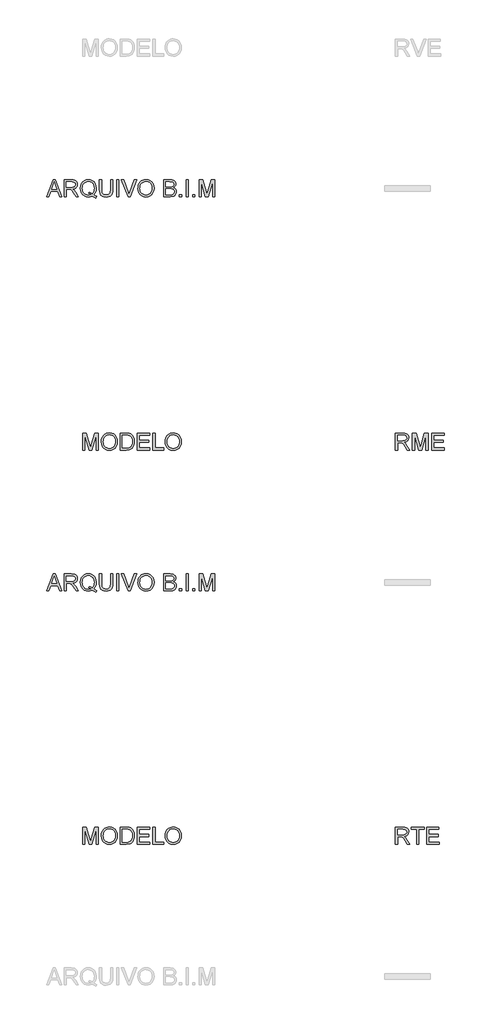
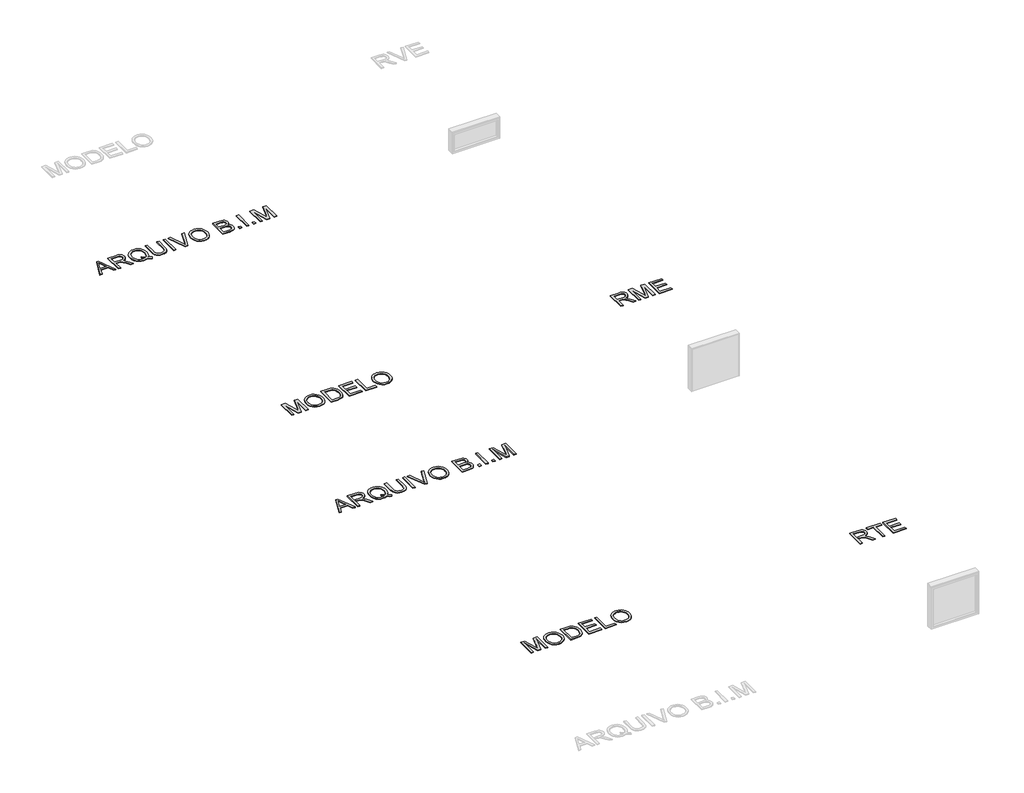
# One storey, part 2 of 15: 6 proxies.
"""IFC4 building model written with IfcOpenShell, lengths in millimetres."""

from ifc_helpers import new_model, si_unit, origin, origin_with_axes, place, context, project, spatial, polyline, outline, extrude, element, save

model = new_model("IFC4")

# Units and contexts
model_context = context("Model", 3, world=origin())
ifc_project = project(units=[si_unit("LENGTHUNIT", "METRE", prefix="MILLI")], contexts=[model_context])

# Site, building, storey
site = spatial("IfcSite", under=ifc_project)
building = spatial("IfcBuilding", under=site)
storey = spatial("IfcBuildingStorey", under=building, Name="Marelli - Linha REASONS - Planta Baixa", Elevation=0.0)

# Proxies
placement = place(None, origin())
element("IfcBuildingElementProxy", 1, Name="300mm Arial", ObjectType="300mm Arial", at=placement, inside=storey, context=model_context, shape_type="SweptSolid", body=[
    extrude(outline(polyline([(9390.580402, -168280.5663201), (9510.8778144, -167979.1973896), (9542.9571244, -167979.1973896), (9663.2545368, -168280.5663201), (9623.449705, -168280.5663201), (9588.9423738, -168186.3885293), (9464.8189886, -168186.3885293), (9430.3852339, -168280.5663201), (9390.580402, -168280.5663201)]), holes=[polyline([(9478.6513517, -168148.717413), (9575.1835872, -168148.717413), (9548.0338959, -168074.6259792), (9526.9174694, -168016.8685059), (9508.1554877, -168068.1512561), (9478.6513517, -168148.717413)])]), origin_with_axes(), (0.0, 0.0, 1.0), 10.0),
    extrude(outline(polyline([(9703.5008271, -168280.5663201), (9703.5008271, -167979.1973896), (9833.3631714, -167979.1973896), (9868.2659757, -167981.2299376), (9893.6590304, -167987.3275817), (9912.2186771, -167998.5847708), (9926.6212572, -168016.0959537), (9935.8642923, -168037.8101885), (9938.945304, -168061.6765329), (9933.8409413, -168091.3646099), (9918.5278533, -168115.9759154), (9906.9280741, -168126.0052983), (9892.5461874, -168134.0205273), (9855.4360911, -168144.0085235), (9876.8468232, -168160.1217548), (9907.3810288, -168198.8965171), (9957.6337094, -168280.5663201), (9913.855752, -168280.5663201), (9874.6395313, -168218.0999573), (9846.3126176, -168176.750021), (9826.4102017, -168157.2154871), (9808.4943485, -168150.0417882), (9786.642158, -168148.717413), (9741.1719434, -168148.717413), (9741.1719434, -168280.5663201), (9703.5008271, -168280.5663201)]), holes=[polyline([(9741.1719434, -168111.0462967), (9825.4904967, -168111.0462967), (9849.706329, -168109.7127245), (9868.4959019, -168105.7120078), (9882.6409647, -168098.7774322), (9892.9232664, -168088.6422832), (9899.1864574, -168076.3826157), (9901.2741877, -168063.0744845), (9897.2918651, -168044.6987789), (9885.3448973, -168029.8915286), (9864.7894908, -168020.1242616), (9834.9818522, -168016.8685059), (9741.1719434, -168016.8685059), (9741.1719434, -168111.0462967)])]), origin_with_axes(), (0.0, 0.0, 1.0), 10.0),
    extrude(outline(polyline([(10231.2643374, -168244.4403081), (10255.5997314, -168263.036743), (10277.9853508, -168275.8574305), (10267.8318077, -168303.4485802), (10236.7641732, -168289.0460001), (10205.8069033, -168268.205485), (10170.9500843, -168281.0077785), (10132.5983863, -168285.2752096), (10094.0627473, -168280.3547879), (10059.2427164, -168265.5935229), (10030.0788713, -168241.9203165), (10008.5117893, -168210.2640708), (9995.185264, -168172.3630282), (9990.7430889, -168129.9554312), (9995.176067, -168087.511046), (10008.4750011, -168049.0581805), (10029.9593096, -168016.9512794), (10058.9484108, -167993.5447874), (10093.639683, -167979.2525719), (10132.2305043, -167974.4885001), (10171.1248282, -167979.3629365), (10205.9908443, -167993.9862458), (10234.9339603, -168017.3835407), (10256.0595839, -168048.5799339), (10268.9722419, -168085.9199564), (10273.2764612, -168127.7481393), (10270.6644991, -168162.5313819), (10262.8286126, -168193.5990164), (10249.7136194, -168220.9142546), (10231.2643374, -168244.4403081)]), holes=[polyline([(10142.9726585, -168194.3347804), (10174.6472983, -168206.3093393), (10200.215097, -168222.9559996), (10215.6983305, -168205.4816049), (10226.7577829, -168184.1076609), (10233.3934544, -168158.8341679), (10235.6053449, -168129.6611256), (10232.478348, -168096.5057608), (10223.0973571, -168067.8201623), (10207.6922985, -168044.3308969), (10186.4930986, -168026.7645316), (10160.934497, -168015.8108452), (10132.4512335, -168012.1596164), (10110.966925, -168014.0059242), (10091.3956028, -168019.5448474), (10073.7372671, -168028.7763863), (10057.9919177, -168041.7005406), (10045.0516685, -168058.2897193), (10035.8086334, -168078.5163313), (10030.2628123, -168102.3803764), (10028.4142052, -168129.8818548), (10030.2421189, -168156.6659634), (10035.7258599, -168180.1437324), (10044.8654282, -168200.3151621), (10057.6608239, -168217.1802523), (10073.2981079, -168230.4906827), (10090.9633415, -168239.9981331), (10110.6565245, -168245.7026032), (10132.3776571, -168247.6040933), (10153.2917485, -168245.6727128), (10172.918253, -168239.8785714), (10153.6228423, -168229.853787), (10133.2605739, -168223.1767288), (10142.9726585, -168194.3347804)])]), origin_with_axes(), (0.0, 0.0, 1.0), 10.0),
    extrude(outline(polyline([(10527.5564963, -167979.1973896), (10565.2276126, -167979.1973896), (10565.2276126, -168153.0584205), (10562.6708327, -168193.7737604), (10555.0004931, -168225.1265034), (10540.6714894, -168249.3147446), (10518.1387172, -168268.5365788), (10487.3469942, -168281.0905519), (10448.2411381, -168285.2752096), (10409.9906077, -168281.6331779), (10379.4104168, -168270.7070826), (10356.4913685, -168252.8740029), (10341.2242657, -168228.5110178), (10332.6434182, -168195.8338995), (10329.7831357, -168153.0584205), (10329.7831357, -167979.1973896), (10367.454252, -167979.1973896), (10367.454252, -168151.7340454), (10369.3120561, -168185.588386), (10374.8854683, -168209.1604248), (10384.9838291, -168225.4851883), (10400.4164788, -168237.597703), (10420.5396239, -168245.1024957), (10444.709471, -168247.6040933), (10483.0243808, -168242.6560805), (10497.3671801, -168236.4710644), (10508.500209, -168227.812042), (10516.8373347, -168215.6351479), (10522.7924245, -168198.8965171), (10527.5564963, -168151.7340454), (10527.5564963, -167979.1973896)])), origin_with_axes(), (0.0, 0.0, 1.0), 10.0),
    extrude(outline(polyline([(10635.8609557, -168280.5663201), (10635.8609557, -167979.1973896), (10673.532072, -167979.1973896), (10673.532072, -168280.5663201), (10635.8609557, -168280.5663201)])), origin_with_axes(), (0.0, 0.0, 1.0), 10.0),
    extrude(outline(polyline([(10837.9017474, -168280.5663201), (10717.972217, -167979.1973896), (10758.2920837, -167979.1973896), (10838.563935, -168196.3213432), (10854.8243192, -168245.2496485), (10870.8639742, -168196.3213432), (10951.3565547, -167979.1973896), (10991.6764214, -167979.1973896), (10876.8236625, -168280.5663201), (10837.9017474, -168280.5663201)])), origin_with_axes(), (0.0, 0.0, 1.0), 10.0),
    extrude(outline(polyline([(11012.5721187, -168133.8549804), (11015.0829134, -168098.5061192), (11022.6152972, -168067.213157), (11035.1692703, -168039.9760937), (11052.7448326, -168016.7949295), (11074.288922, -167998.2858666), (11098.7484761, -167985.0651074), (11126.1234951, -167977.1326519), (11156.4139789, -167974.4885001), (11195.9428992, -167979.454907), (11231.3883295, -167994.3541278), (11260.8188891, -168018.1376988), (11282.3031976, -168049.7571563), (11295.4365848, -168087.68579), (11299.8143806, -168130.3968896), (11295.2066586, -168173.6782064), (11281.3834926, -168212.140269), (11259.1082378, -168243.8149088), (11229.1442493, -168266.733957), (11194.0023217, -168280.6398965), (11156.1932497, -168285.2752096), (11116.057324, -168280.1524528), (11080.4095587, -168264.7841825), (11051.0525754, -168240.5591531), (11029.7889961, -168208.8661192), (11016.8763381, -168172.3998164), (11012.5721187, -168133.8549804)]), holes=[polyline([(11050.2432351, -168134.2228624), (11052.126331, -168159.1974513), (11057.7756189, -168181.3669401), (11067.1910987, -168200.7313286), (11080.3727705, -168217.2906169), (11096.3963306, -168230.5527628), (11114.3374757, -168240.0257242), (11134.1962056, -168245.709501), (11155.9725205, -168247.6040933), (11178.1213158, -168245.6911069), (11198.2145706, -168239.9521478), (11216.2522846, -168230.3872159), (11232.2344581, -168216.9963113), (11245.3195608, -168200.0875351), (11254.6660627, -168179.9689885), (11260.2739639, -168156.6406715), (11262.1432643, -168130.102584), (11258.9426909, -168096.7540812), (11249.3409708, -168067.9305269), (11233.5864244, -168044.358488), (11211.9273719, -168026.7645316), (11185.7985532, -168015.8108452), (11156.6347081, -168012.1596164), (11135.6148506, -168013.9185522), (11116.1125063, -168019.1953595), (11098.1276752, -168027.9900385), (11081.6603574, -168040.302589), (11067.9153664, -168056.7262208), (11058.0975156, -168077.8541437), (11052.2068052, -168103.6863575), (11050.2432351, -168134.2228624)])]), origin_with_axes(), (0.0, 0.0, 1.0), 10.0),
    extrude(outline(polyline([(11469.334404, -168280.5663201), (11469.334404, -167979.1973896), (11584.3343156, -167979.1973896), (11615.9629702, -167981.4138786), (11640.6570491, -167988.0633457), (11659.5845778, -167999.3113377), (11673.9135815, -168015.3234015), (11682.9358874, -168034.1589597), (11685.9433227, -168053.8774346), (11683.414134, -168072.0232141), (11675.8265679, -168089.0837416), (11663.125442, -168104.0105535), (11645.2555741, -168115.7551862), (11666.6019268, -168126.9020107), (11682.3748674, -168143.8613707), (11692.1145432, -168165.5112261), (11695.3611018, -168190.7295368), (11693.1446128, -168211.7447958), (11686.4951457, -168231.2333445), (11676.5715289, -168247.8064284), (11664.5325906, -168260.0752929), (11649.7897196, -168268.9596431), (11631.7543048, -168275.3791839), (11583.4513989, -168280.5663201), (11469.334404, -168280.5663201)]), holes=[polyline([(11507.0055203, -168101.6285176), (11575.7994534, -168101.6285176), (11615.9721672, -168098.3911561), (11630.0344565, -168092.8085468), (11640.1420143, -168084.4484284), (11646.2396584, -168073.4395597), (11648.2722064, -168059.9106994), (11646.3776141, -168046.7773121), (11640.6938373, -168035.3361821), (11631.4783933, -168026.4058467), (11618.9887996, -168020.8048433), (11570.575529, -168016.8685059), (11507.0055203, -168016.8685059), (11507.0055203, -168101.6285176)]), polyline([(11507.0055203, -168242.8952038), (11584.2607393, -168242.8952038), (11612.2197709, -168241.4236758), (11635.8745832, -168233.2199073), (11651.5463562, -168216.4812765), (11656.1540782, -168204.6538704), (11657.6899855, -168191.0974188), (11655.8873637, -168175.3520694), (11650.4794984, -168161.814012), (11641.0341282, -168151.2282076), (11627.1189917, -168144.3396173), (11607.4097138, -168140.5596298), (11580.5819193, -168139.2996339), (11507.0055203, -168139.2996339), (11507.0055203, -168242.8952038)])]), origin_with_axes(), (0.0, 0.0, 1.0), 10.0),
    extrude(outline(polyline([(11751.8677763, -168280.5663201), (11751.8677763, -168242.8952038), (11789.5388926, -168242.8952038), (11789.5388926, -168280.5663201), (11751.8677763, -168280.5663201)])), origin_with_axes(), (0.0, 0.0, 1.0), 10.0),
    extrude(outline(polyline([(11869.5900147, -168280.5663201), (11869.5900147, -167979.1973896), (11907.261131, -167979.1973896), (11907.261131, -168280.5663201), (11869.5900147, -168280.5663201)])), origin_with_axes(), (0.0, 0.0, 1.0), 10.0),
    extrude(outline(polyline([(11987.3122532, -168280.5663201), (11987.3122532, -168242.8952038), (12024.9833695, -168242.8952038), (12024.9833695, -168280.5663201), (11987.3122532, -168280.5663201)])), origin_with_axes(), (0.0, 0.0, 1.0), 10.0),
    extrude(outline(polyline([(12100.3256021, -168280.5663201), (12100.3256021, -167979.1973896), (12165.1464096, -167979.1973896), (12226.803432, -168191.6124536), (12239.2378435, -168235.9790223), (12252.7023245, -168187.9336337), (12313.3292773, -167979.1973896), (12378.1500848, -167979.1973896), (12378.1500848, -168280.5663201), (12340.4789685, -168280.5663201), (12340.4789685, -168016.8685059), (12264.7688539, -168280.5663201), (12213.706833, -168280.5663201), (12137.9967184, -168016.8685059), (12137.9967184, -168280.5663201), (12100.3256021, -168280.5663201)])), origin_with_axes(), (0.0, 0.0, 1.0), 10.0),
])
element("IfcBuildingElementProxy", 2, Name="300mm Arial", ObjectType="300mm Arial", at=placement, inside=storey, context=model_context, shape_type="SweptSolid", body=[
    extrude(outline(polyline([(10033.1230948, -165780.5663201), (10033.1230948, -165479.1973896), (10097.9439023, -165479.1973896), (10159.6009247, -165691.6124536), (10172.0353362, -165735.9790223), (10185.4998172, -165687.9336337), (10246.12677, -165479.1973896), (10310.9475775, -165479.1973896), (10310.9475775, -165780.5663201), (10273.2764612, -165780.5663201), (10273.2764612, -165516.8685059), (10197.5663466, -165780.5663201), (10146.5043257, -165780.5663201), (10070.7942111, -165516.8685059), (10070.7942111, -165780.5663201), (10033.1230948, -165780.5663201)])), origin_with_axes(), (0.0, 0.0, 1.0), 10.0),
    extrude(outline(polyline([(10362.7453625, -165633.8549804), (10365.2561571, -165598.5061192), (10372.7885409, -165567.213157), (10385.342514, -165539.9760937), (10402.9180763, -165516.7949295), (10424.4621657, -165498.2858666), (10448.9217198, -165485.0651074), (10476.2967388, -165477.1326519), (10506.5872226, -165474.4885001), (10546.116143, -165479.454907), (10581.5615732, -165494.3541278), (10610.9921328, -165518.1376988), (10632.4764413, -165549.7571563), (10645.6098286, -165587.68579), (10649.9876243, -165630.3968896), (10645.3799023, -165673.6782064), (10631.5567363, -165712.140269), (10609.2814815, -165743.8149088), (10579.317493, -165766.733957), (10544.1755654, -165780.6398965), (10506.3664934, -165785.2752096), (10466.2305677, -165780.1524528), (10430.5828024, -165764.7841825), (10401.2258192, -165740.5591531), (10379.9622398, -165708.8661192), (10367.0495818, -165672.3998164), (10362.7453625, -165633.8549804)]), holes=[polyline([(10400.4164788, -165634.2228624), (10402.2995747, -165659.1974513), (10407.9488626, -165681.3669401), (10417.3643424, -165700.7313286), (10430.5460142, -165717.2906169), (10446.5695743, -165730.5527628), (10464.5107194, -165740.0257242), (10484.3694493, -165745.709501), (10506.1457642, -165747.6040933), (10528.2945596, -165745.6911069), (10548.3878143, -165739.9521478), (10566.4255284, -165730.3872159), (10582.4077018, -165716.9963113), (10595.4928045, -165700.0875351), (10604.8393064, -165679.9689885), (10610.4472076, -165656.6406715), (10612.316508, -165630.102584), (10609.1159346, -165596.7540812), (10599.5142146, -165567.9305269), (10583.7596681, -165544.358488), (10562.1006157, -165526.7645316), (10535.9717969, -165515.8108452), (10506.8079518, -165512.1596164), (10485.7880943, -165513.9185522), (10466.28575, -165519.1953595), (10448.300919, -165527.9900385), (10431.8336012, -165540.302589), (10418.0886101, -165556.7262208), (10408.2707594, -165577.8541437), (10402.3800489, -165603.6863575), (10400.4164788, -165634.2228624)])]), origin_with_axes(), (0.0, 0.0, 1.0), 10.0),
    extrude(outline(polyline([(10701.7854092, -165780.5663201), (10701.7854092, -165479.1973896), (10805.7488611, -165479.1973896), (10859.5332088, -165483.5383972), (10883.555903, -165491.9077126), (10903.826201, -165505.0962821), (10924.666716, -165528.0521186), (10939.5107545, -165556.5997614), (10948.3951047, -165590.1873876), (10951.3565547, -165628.2631741), (10949.3515979, -165660.6091985), (10943.3367273, -165689.0740679), (10934.1764656, -165713.3082943), (10922.7353355, -165732.9623899), (10909.5651601, -165748.477813), (10895.2177623, -165760.2960221), (10878.745846, -165769.0608107), (10859.202115, -165775.4159721), (10810.7520562, -165780.5663201), (10701.7854092, -165780.5663201)]), holes=[polyline([(10739.4565255, -165742.8952038), (10806.1167431, -165742.8952038), (10833.6894986, -165741.5340404), (10854.60359, -165737.4505502), (10870.3857276, -165730.8838566), (10882.5626217, -165722.0730828), (10895.6500236, -165705.7667134), (10905.48167, -165684.6594839), (10911.6344963, -165658.6594239), (10913.6854384, -165627.6745629), (10909.6663276, -165586.6189322), (10897.6089953, -165556.3054558), (10879.7943096, -165535.4833349), (10858.5031392, -165522.9017706), (10836.8348897, -165518.3768221), (10805.0866735, -165516.8685059), (10739.4565255, -165516.8685059), (10739.4565255, -165742.8952038)])]), origin_with_axes(), (0.0, 0.0, 1.0), 10.0),
    extrude(outline(polyline([(11003.1543397, -165780.5663201), (11003.1543397, -165479.1973896), (11219.7632584, -165479.1973896), (11219.7632584, -165516.8685059), (11040.825456, -165516.8685059), (11040.825456, -165606.3374072), (11210.3454794, -165606.3374072), (11210.3454794, -165644.0085235), (11040.825456, -165644.0085235), (11040.825456, -165742.8952038), (11224.472148, -165742.8952038), (11224.472148, -165780.5663201), (11003.1543397, -165780.5663201)])), origin_with_axes(), (0.0, 0.0, 1.0), 10.0),
    extrude(outline(polyline([(11280.9788224, -165780.5663201), (11280.9788224, -165479.1973896), (11318.6499387, -165479.1973896), (11318.6499387, -165742.8952038), (11469.334404, -165742.8952038), (11469.334404, -165780.5663201), (11280.9788224, -165780.5663201)])), origin_with_axes(), (0.0, 0.0, 1.0), 10.0),
    extrude(outline(polyline([(11497.5877412, -165633.8549804), (11500.0985358, -165598.5061192), (11507.6309197, -165567.213157), (11520.1848927, -165539.9760937), (11537.7604551, -165516.7949295), (11559.3045444, -165498.2858666), (11583.7640986, -165485.0651074), (11611.1391175, -165477.1326519), (11641.4296013, -165474.4885001), (11680.9585217, -165479.454907), (11716.4039519, -165494.3541278), (11745.8345115, -165518.1376988), (11767.3188201, -165549.7571563), (11780.4522073, -165587.68579), (11784.830003, -165630.3968896), (11780.222281, -165673.6782064), (11766.3991151, -165712.140269), (11744.1238603, -165743.8149088), (11714.1598717, -165766.733957), (11679.0179442, -165780.6398965), (11641.2088721, -165785.2752096), (11601.0729464, -165780.1524528), (11565.4251811, -165764.7841825), (11536.0681979, -165740.5591531), (11514.8046186, -165708.8661192), (11501.8919605, -165672.3998164), (11497.5877412, -165633.8549804)]), holes=[polyline([(11535.2588575, -165634.2228624), (11537.1419535, -165659.1974513), (11542.7912413, -165681.3669401), (11552.2067212, -165700.7313286), (11565.3883929, -165717.2906169), (11581.4119531, -165730.5527628), (11599.3530981, -165740.0257242), (11619.2118281, -165745.709501), (11640.9881429, -165747.6040933), (11663.1369383, -165745.6911069), (11683.230193, -165739.9521478), (11701.2679071, -165730.3872159), (11717.2500805, -165716.9963113), (11730.3351832, -165700.0875351), (11739.6816852, -165679.9689885), (11745.2895863, -165656.6406715), (11747.1588867, -165630.102584), (11743.9583134, -165596.7540812), (11734.3565933, -165567.9305269), (11718.6020468, -165544.358488), (11696.9429944, -165526.7645316), (11670.8141757, -165515.8108452), (11641.6503305, -165512.1596164), (11620.630473, -165513.9185522), (11601.1281287, -165519.1953595), (11583.1432977, -165527.9900385), (11566.6759799, -165540.302589), (11552.9309888, -165556.7262208), (11543.1131381, -165577.8541437), (11537.2224276, -165603.6863575), (11535.2588575, -165634.2228624)])]), origin_with_axes(), (0.0, 0.0, 1.0), 10.0),
])
element("IfcBuildingElementProxy", 3, Name="300mm Arial", ObjectType="300mm Arial", at=placement, inside=storey, context=model_context, shape_type="SweptSolid", body=[
    extrude(outline(polyline([(9390.580402, -161280.5663201), (9510.8778144, -160979.1973896), (9542.9571244, -160979.1973896), (9663.2545368, -161280.5663201), (9623.449705, -161280.5663201), (9588.9423738, -161186.3885293), (9464.8189886, -161186.3885293), (9430.3852339, -161280.5663201), (9390.580402, -161280.5663201)]), holes=[polyline([(9478.6513517, -161148.717413), (9575.1835872, -161148.717413), (9548.0338959, -161074.6259792), (9526.9174694, -161016.8685059), (9508.1554877, -161068.1512561), (9478.6513517, -161148.717413)])]), origin_with_axes(), (0.0, 0.0, 1.0), 10.0),
    extrude(outline(polyline([(9703.5008271, -161280.5663201), (9703.5008271, -160979.1973896), (9833.3631714, -160979.1973896), (9868.2659757, -160981.2299376), (9893.6590304, -160987.3275817), (9912.2186771, -160998.5847708), (9926.6212572, -161016.0959537), (9935.8642923, -161037.8101885), (9938.945304, -161061.6765329), (9933.8409413, -161091.3646099), (9918.5278533, -161115.9759154), (9906.9280741, -161126.0052983), (9892.5461874, -161134.0205273), (9855.4360911, -161144.0085235), (9876.8468232, -161160.1217548), (9907.3810288, -161198.8965171), (9957.6337094, -161280.5663201), (9913.855752, -161280.5663201), (9874.6395313, -161218.0999573), (9846.3126176, -161176.750021), (9826.4102017, -161157.2154871), (9808.4943485, -161150.0417882), (9786.642158, -161148.717413), (9741.1719434, -161148.717413), (9741.1719434, -161280.5663201), (9703.5008271, -161280.5663201)]), holes=[polyline([(9741.1719434, -161111.0462967), (9825.4904967, -161111.0462967), (9849.706329, -161109.7127245), (9868.4959019, -161105.7120078), (9882.6409647, -161098.7774322), (9892.9232664, -161088.6422832), (9899.1864574, -161076.3826157), (9901.2741877, -161063.0744845), (9897.2918651, -161044.6987789), (9885.3448973, -161029.8915286), (9864.7894908, -161020.1242616), (9834.9818522, -161016.8685059), (9741.1719434, -161016.8685059), (9741.1719434, -161111.0462967)])]), origin_with_axes(), (0.0, 0.0, 1.0), 10.0),
    extrude(outline(polyline([(10231.2643374, -161244.4403081), (10255.5997314, -161263.036743), (10277.9853508, -161275.8574305), (10267.8318077, -161303.4485802), (10236.7641732, -161289.0460001), (10205.8069033, -161268.205485), (10170.9500843, -161281.0077785), (10132.5983863, -161285.2752096), (10094.0627473, -161280.3547879), (10059.2427164, -161265.5935229), (10030.0788713, -161241.9203165), (10008.5117893, -161210.2640708), (9995.185264, -161172.3630282), (9990.7430889, -161129.9554312), (9995.176067, -161087.511046), (10008.4750011, -161049.0581805), (10029.9593096, -161016.9512794), (10058.9484108, -160993.5447874), (10093.639683, -160979.2525719), (10132.2305043, -160974.4885001), (10171.1248282, -160979.3629365), (10205.9908443, -160993.9862458), (10234.9339603, -161017.3835407), (10256.0595839, -161048.5799339), (10268.9722419, -161085.9199564), (10273.2764612, -161127.7481393), (10270.6644991, -161162.5313819), (10262.8286126, -161193.5990164), (10249.7136194, -161220.9142546), (10231.2643374, -161244.4403081)]), holes=[polyline([(10142.9726585, -161194.3347804), (10174.6472983, -161206.3093393), (10200.215097, -161222.9559996), (10215.6983305, -161205.4816049), (10226.7577829, -161184.1076609), (10233.3934544, -161158.8341679), (10235.6053449, -161129.6611256), (10232.478348, -161096.5057608), (10223.0973571, -161067.8201623), (10207.6922985, -161044.3308969), (10186.4930986, -161026.7645316), (10160.934497, -161015.8108452), (10132.4512335, -161012.1596164), (10110.966925, -161014.0059242), (10091.3956028, -161019.5448474), (10073.7372671, -161028.7763863), (10057.9919177, -161041.7005406), (10045.0516685, -161058.2897193), (10035.8086334, -161078.5163313), (10030.2628123, -161102.3803764), (10028.4142052, -161129.8818548), (10030.2421189, -161156.6659634), (10035.7258599, -161180.1437324), (10044.8654282, -161200.3151621), (10057.6608239, -161217.1802523), (10073.2981079, -161230.4906827), (10090.9633415, -161239.9981331), (10110.6565245, -161245.7026032), (10132.3776571, -161247.6040933), (10153.2917485, -161245.6727128), (10172.918253, -161239.8785714), (10153.6228423, -161229.853787), (10133.2605739, -161223.1767288), (10142.9726585, -161194.3347804)])]), origin_with_axes(), (0.0, 0.0, 1.0), 10.0),
    extrude(outline(polyline([(10527.5564963, -160979.1973896), (10565.2276126, -160979.1973896), (10565.2276126, -161153.0584205), (10562.6708327, -161193.7737604), (10555.0004931, -161225.1265034), (10540.6714894, -161249.3147446), (10518.1387172, -161268.5365788), (10487.3469942, -161281.0905519), (10448.2411381, -161285.2752096), (10409.9906077, -161281.6331779), (10379.4104168, -161270.7070826), (10356.4913685, -161252.8740029), (10341.2242657, -161228.5110178), (10332.6434182, -161195.8338995), (10329.7831357, -161153.0584205), (10329.7831357, -160979.1973896), (10367.454252, -160979.1973896), (10367.454252, -161151.7340454), (10369.3120561, -161185.588386), (10374.8854683, -161209.1604248), (10384.9838291, -161225.4851883), (10400.4164788, -161237.597703), (10420.5396239, -161245.1024957), (10444.709471, -161247.6040933), (10483.0243808, -161242.6560805), (10497.3671801, -161236.4710644), (10508.500209, -161227.812042), (10516.8373347, -161215.6351479), (10522.7924245, -161198.8965171), (10527.5564963, -161151.7340454), (10527.5564963, -160979.1973896)])), origin_with_axes(), (0.0, 0.0, 1.0), 10.0),
    extrude(outline(polyline([(10635.8609557, -161280.5663201), (10635.8609557, -160979.1973896), (10673.532072, -160979.1973896), (10673.532072, -161280.5663201), (10635.8609557, -161280.5663201)])), origin_with_axes(), (0.0, 0.0, 1.0), 10.0),
    extrude(outline(polyline([(10837.9017474, -161280.5663201), (10717.972217, -160979.1973896), (10758.2920837, -160979.1973896), (10838.563935, -161196.3213432), (10854.8243192, -161245.2496485), (10870.8639742, -161196.3213432), (10951.3565547, -160979.1973896), (10991.6764214, -160979.1973896), (10876.8236625, -161280.5663201), (10837.9017474, -161280.5663201)])), origin_with_axes(), (0.0, 0.0, 1.0), 10.0),
    extrude(outline(polyline([(11012.5721187, -161133.8549804), (11015.0829134, -161098.5061192), (11022.6152972, -161067.213157), (11035.1692703, -161039.9760937), (11052.7448326, -161016.7949295), (11074.288922, -160998.2858666), (11098.7484761, -160985.0651074), (11126.1234951, -160977.1326519), (11156.4139789, -160974.4885001), (11195.9428992, -160979.454907), (11231.3883295, -160994.3541278), (11260.8188891, -161018.1376988), (11282.3031976, -161049.7571563), (11295.4365848, -161087.68579), (11299.8143806, -161130.3968896), (11295.2066586, -161173.6782064), (11281.3834926, -161212.140269), (11259.1082378, -161243.8149088), (11229.1442493, -161266.733957), (11194.0023217, -161280.6398965), (11156.1932497, -161285.2752096), (11116.057324, -161280.1524528), (11080.4095587, -161264.7841825), (11051.0525754, -161240.5591531), (11029.7889961, -161208.8661192), (11016.8763381, -161172.3998164), (11012.5721187, -161133.8549804)]), holes=[polyline([(11050.2432351, -161134.2228624), (11052.126331, -161159.1974513), (11057.7756189, -161181.3669401), (11067.1910987, -161200.7313286), (11080.3727705, -161217.2906169), (11096.3963306, -161230.5527628), (11114.3374757, -161240.0257242), (11134.1962056, -161245.709501), (11155.9725205, -161247.6040933), (11178.1213158, -161245.6911069), (11198.2145706, -161239.9521478), (11216.2522846, -161230.3872159), (11232.2344581, -161216.9963113), (11245.3195608, -161200.0875351), (11254.6660627, -161179.9689885), (11260.2739639, -161156.6406715), (11262.1432643, -161130.102584), (11258.9426909, -161096.7540812), (11249.3409708, -161067.9305269), (11233.5864244, -161044.358488), (11211.9273719, -161026.7645316), (11185.7985532, -161015.8108452), (11156.6347081, -161012.1596164), (11135.6148506, -161013.9185522), (11116.1125063, -161019.1953595), (11098.1276752, -161027.9900385), (11081.6603574, -161040.302589), (11067.9153664, -161056.7262208), (11058.0975156, -161077.8541437), (11052.2068052, -161103.6863575), (11050.2432351, -161134.2228624)])]), origin_with_axes(), (0.0, 0.0, 1.0), 10.0),
    extrude(outline(polyline([(11469.334404, -161280.5663201), (11469.334404, -160979.1973896), (11584.3343156, -160979.1973896), (11615.9629702, -160981.4138786), (11640.6570491, -160988.0633457), (11659.5845778, -160999.3113377), (11673.9135815, -161015.3234015), (11682.9358874, -161034.1589597), (11685.9433227, -161053.8774346), (11683.414134, -161072.0232141), (11675.8265679, -161089.0837416), (11663.125442, -161104.0105535), (11645.2555741, -161115.7551862), (11666.6019268, -161126.9020107), (11682.3748674, -161143.8613707), (11692.1145432, -161165.5112261), (11695.3611018, -161190.7295368), (11693.1446128, -161211.7447958), (11686.4951457, -161231.2333445), (11676.5715289, -161247.8064284), (11664.5325906, -161260.0752929), (11649.7897196, -161268.9596431), (11631.7543048, -161275.3791839), (11583.4513989, -161280.5663201), (11469.334404, -161280.5663201)]), holes=[polyline([(11507.0055203, -161101.6285176), (11575.7994534, -161101.6285176), (11615.9721672, -161098.3911561), (11630.0344565, -161092.8085468), (11640.1420143, -161084.4484284), (11646.2396584, -161073.4395597), (11648.2722064, -161059.9106994), (11646.3776141, -161046.7773121), (11640.6938373, -161035.3361821), (11631.4783933, -161026.4058467), (11618.9887996, -161020.8048433), (11570.575529, -161016.8685059), (11507.0055203, -161016.8685059), (11507.0055203, -161101.6285176)]), polyline([(11507.0055203, -161242.8952038), (11584.2607393, -161242.8952038), (11612.2197709, -161241.4236758), (11635.8745832, -161233.2199073), (11651.5463562, -161216.4812765), (11656.1540782, -161204.6538704), (11657.6899855, -161191.0974188), (11655.8873637, -161175.3520694), (11650.4794984, -161161.814012), (11641.0341282, -161151.2282076), (11627.1189917, -161144.3396173), (11607.4097138, -161140.5596298), (11580.5819193, -161139.2996339), (11507.0055203, -161139.2996339), (11507.0055203, -161242.8952038)])]), origin_with_axes(), (0.0, 0.0, 1.0), 10.0),
    extrude(outline(polyline([(11751.8677763, -161280.5663201), (11751.8677763, -161242.8952038), (11789.5388926, -161242.8952038), (11789.5388926, -161280.5663201), (11751.8677763, -161280.5663201)])), origin_with_axes(), (0.0, 0.0, 1.0), 10.0),
    extrude(outline(polyline([(11869.5900147, -161280.5663201), (11869.5900147, -160979.1973896), (11907.261131, -160979.1973896), (11907.261131, -161280.5663201), (11869.5900147, -161280.5663201)])), origin_with_axes(), (0.0, 0.0, 1.0), 10.0),
    extrude(outline(polyline([(11987.3122532, -161280.5663201), (11987.3122532, -161242.8952038), (12024.9833695, -161242.8952038), (12024.9833695, -161280.5663201), (11987.3122532, -161280.5663201)])), origin_with_axes(), (0.0, 0.0, 1.0), 10.0),
    extrude(outline(polyline([(12100.3256021, -161280.5663201), (12100.3256021, -160979.1973896), (12165.1464096, -160979.1973896), (12226.803432, -161191.6124536), (12239.2378435, -161235.9790223), (12252.7023245, -161187.9336337), (12313.3292773, -160979.1973896), (12378.1500848, -160979.1973896), (12378.1500848, -161280.5663201), (12340.4789685, -161280.5663201), (12340.4789685, -161016.8685059), (12264.7688539, -161280.5663201), (12213.706833, -161280.5663201), (12137.9967184, -161016.8685059), (12137.9967184, -161280.5663201), (12100.3256021, -161280.5663201)])), origin_with_axes(), (0.0, 0.0, 1.0), 10.0),
])
element("IfcBuildingElementProxy", 4, Name="300mm Arial", ObjectType="300mm Arial", at=placement, inside=storey, context=model_context, shape_type="SweptSolid", body=[
    extrude(outline(polyline([(10033.1230948, -172780.5663201), (10033.1230948, -172479.1973896), (10097.9439023, -172479.1973896), (10159.6009247, -172691.6124536), (10172.0353362, -172735.9790223), (10185.4998172, -172687.9336337), (10246.12677, -172479.1973896), (10310.9475775, -172479.1973896), (10310.9475775, -172780.5663201), (10273.2764612, -172780.5663201), (10273.2764612, -172516.8685059), (10197.5663466, -172780.5663201), (10146.5043257, -172780.5663201), (10070.7942111, -172516.8685059), (10070.7942111, -172780.5663201), (10033.1230948, -172780.5663201)])), origin_with_axes(), (0.0, 0.0, 1.0), 10.0),
    extrude(outline(polyline([(10362.7453625, -172633.8549804), (10365.2561571, -172598.5061192), (10372.7885409, -172567.213157), (10385.342514, -172539.9760937), (10402.9180763, -172516.7949295), (10424.4621657, -172498.2858666), (10448.9217198, -172485.0651074), (10476.2967388, -172477.1326519), (10506.5872226, -172474.4885001), (10546.116143, -172479.454907), (10581.5615732, -172494.3541278), (10610.9921328, -172518.1376988), (10632.4764413, -172549.7571563), (10645.6098286, -172587.68579), (10649.9876243, -172630.3968896), (10645.3799023, -172673.6782064), (10631.5567363, -172712.140269), (10609.2814815, -172743.8149088), (10579.317493, -172766.733957), (10544.1755654, -172780.6398965), (10506.3664934, -172785.2752096), (10466.2305677, -172780.1524528), (10430.5828024, -172764.7841825), (10401.2258192, -172740.5591531), (10379.9622398, -172708.8661192), (10367.0495818, -172672.3998164), (10362.7453625, -172633.8549804)]), holes=[polyline([(10400.4164788, -172634.2228624), (10402.2995747, -172659.1974513), (10407.9488626, -172681.3669401), (10417.3643424, -172700.7313286), (10430.5460142, -172717.2906169), (10446.5695743, -172730.5527628), (10464.5107194, -172740.0257242), (10484.3694493, -172745.709501), (10506.1457642, -172747.6040933), (10528.2945596, -172745.6911069), (10548.3878143, -172739.9521478), (10566.4255284, -172730.3872159), (10582.4077018, -172716.9963113), (10595.4928045, -172700.0875351), (10604.8393064, -172679.9689885), (10610.4472076, -172656.6406715), (10612.316508, -172630.102584), (10609.1159346, -172596.7540812), (10599.5142146, -172567.9305269), (10583.7596681, -172544.358488), (10562.1006157, -172526.7645316), (10535.9717969, -172515.8108452), (10506.8079518, -172512.1596164), (10485.7880943, -172513.9185522), (10466.28575, -172519.1953595), (10448.300919, -172527.9900385), (10431.8336012, -172540.302589), (10418.0886101, -172556.7262208), (10408.2707594, -172577.8541437), (10402.3800489, -172603.6863575), (10400.4164788, -172634.2228624)])]), origin_with_axes(), (0.0, 0.0, 1.0), 10.0),
    extrude(outline(polyline([(10701.7854092, -172780.5663201), (10701.7854092, -172479.1973896), (10805.7488611, -172479.1973896), (10859.5332088, -172483.5383972), (10883.555903, -172491.9077126), (10903.826201, -172505.0962821), (10924.666716, -172528.0521186), (10939.5107545, -172556.5997614), (10948.3951047, -172590.1873876), (10951.3565547, -172628.2631741), (10949.3515979, -172660.6091985), (10943.3367273, -172689.0740679), (10934.1764656, -172713.3082943), (10922.7353355, -172732.9623899), (10909.5651601, -172748.477813), (10895.2177623, -172760.2960221), (10878.745846, -172769.0608107), (10859.202115, -172775.4159721), (10810.7520562, -172780.5663201), (10701.7854092, -172780.5663201)]), holes=[polyline([(10739.4565255, -172742.8952038), (10806.1167431, -172742.8952038), (10833.6894986, -172741.5340404), (10854.60359, -172737.4505502), (10870.3857276, -172730.8838566), (10882.5626217, -172722.0730828), (10895.6500236, -172705.7667134), (10905.48167, -172684.6594839), (10911.6344963, -172658.6594239), (10913.6854384, -172627.6745629), (10909.6663276, -172586.6189322), (10897.6089953, -172556.3054558), (10879.7943096, -172535.4833349), (10858.5031392, -172522.9017706), (10836.8348897, -172518.3768221), (10805.0866735, -172516.8685059), (10739.4565255, -172516.8685059), (10739.4565255, -172742.8952038)])]), origin_with_axes(), (0.0, 0.0, 1.0), 10.0),
    extrude(outline(polyline([(11003.1543397, -172780.5663201), (11003.1543397, -172479.1973896), (11219.7632584, -172479.1973896), (11219.7632584, -172516.8685059), (11040.825456, -172516.8685059), (11040.825456, -172606.3374072), (11210.3454794, -172606.3374072), (11210.3454794, -172644.0085235), (11040.825456, -172644.0085235), (11040.825456, -172742.8952038), (11224.472148, -172742.8952038), (11224.472148, -172780.5663201), (11003.1543397, -172780.5663201)])), origin_with_axes(), (0.0, 0.0, 1.0), 10.0),
    extrude(outline(polyline([(11280.9788224, -172780.5663201), (11280.9788224, -172479.1973896), (11318.6499387, -172479.1973896), (11318.6499387, -172742.8952038), (11469.334404, -172742.8952038), (11469.334404, -172780.5663201), (11280.9788224, -172780.5663201)])), origin_with_axes(), (0.0, 0.0, 1.0), 10.0),
    extrude(outline(polyline([(11497.5877412, -172633.8549804), (11500.0985358, -172598.5061192), (11507.6309197, -172567.213157), (11520.1848927, -172539.9760937), (11537.7604551, -172516.7949295), (11559.3045444, -172498.2858666), (11583.7640986, -172485.0651074), (11611.1391175, -172477.1326519), (11641.4296013, -172474.4885001), (11680.9585217, -172479.454907), (11716.4039519, -172494.3541278), (11745.8345115, -172518.1376988), (11767.3188201, -172549.7571563), (11780.4522073, -172587.68579), (11784.830003, -172630.3968896), (11780.222281, -172673.6782064), (11766.3991151, -172712.140269), (11744.1238603, -172743.8149088), (11714.1598717, -172766.733957), (11679.0179442, -172780.6398965), (11641.2088721, -172785.2752096), (11601.0729464, -172780.1524528), (11565.4251811, -172764.7841825), (11536.0681979, -172740.5591531), (11514.8046186, -172708.8661192), (11501.8919605, -172672.3998164), (11497.5877412, -172633.8549804)]), holes=[polyline([(11535.2588575, -172634.2228624), (11537.1419535, -172659.1974513), (11542.7912413, -172681.3669401), (11552.2067212, -172700.7313286), (11565.3883929, -172717.2906169), (11581.4119531, -172730.5527628), (11599.3530981, -172740.0257242), (11619.2118281, -172745.709501), (11640.9881429, -172747.6040933), (11663.1369383, -172745.6911069), (11683.230193, -172739.9521478), (11701.2679071, -172730.3872159), (11717.2500805, -172716.9963113), (11730.3351832, -172700.0875351), (11739.6816852, -172679.9689885), (11745.2895863, -172656.6406715), (11747.1588867, -172630.102584), (11743.9583134, -172596.7540812), (11734.3565933, -172567.9305269), (11718.6020468, -172544.358488), (11696.9429944, -172526.7645316), (11670.8141757, -172515.8108452), (11641.6503305, -172512.1596164), (11620.630473, -172513.9185522), (11601.1281287, -172519.1953595), (11583.1432977, -172527.9900385), (11566.6759799, -172540.302589), (11552.9309888, -172556.7262208), (11543.1131381, -172577.8541437), (11537.2224276, -172603.6863575), (11535.2588575, -172634.2228624)])]), origin_with_axes(), (0.0, 0.0, 1.0), 10.0),
])
element("IfcBuildingElementProxy", 5, Name="300mm Arial", ObjectType="300mm Arial", at=placement, inside=storey, context=model_context, shape_type="SweptSolid", body=[
    extrude(outline(polyline([(15588.7720603, -165780.5663201), (15588.7720603, -165479.1973896), (15718.6344046, -165479.1973896), (15753.5372089, -165481.2299376), (15778.9302636, -165487.3275817), (15797.4899103, -165498.5847708), (15811.8924904, -165516.0959537), (15821.1355255, -165537.8101885), (15824.2165372, -165561.6765329), (15819.1121745, -165591.3646099), (15803.7990865, -165615.9759154), (15792.1993073, -165626.0052983), (15777.8174206, -165634.0205273), (15740.7073243, -165644.0085235), (15762.1180564, -165660.1217548), (15792.652262, -165698.8965171), (15842.9049426, -165780.5663201), (15799.1269851, -165780.5663201), (15759.9107645, -165718.0999573), (15731.5838508, -165676.750021), (15711.6814349, -165657.2154871), (15693.7655817, -165650.0417882), (15671.9133912, -165648.717413), (15626.4431766, -165648.717413), (15626.4431766, -165780.5663201), (15588.7720603, -165780.5663201)]), holes=[polyline([(15626.4431766, -165611.0462967), (15710.7617299, -165611.0462967), (15734.9775622, -165609.7127245), (15753.7671351, -165605.7120078), (15767.9121979, -165598.7774322), (15778.1944996, -165588.6422832), (15784.4576906, -165576.3826157), (15786.5454209, -165563.0744845), (15782.5630983, -165544.6987789), (15770.6161305, -165529.8915286), (15750.060724, -165520.1242616), (15720.2530854, -165516.8685059), (15626.4431766, -165516.8685059), (15626.4431766, -165611.0462967)])]), origin_with_axes(), (0.0, 0.0, 1.0), 10.0),
    extrude(outline(polyline([(15890.1409908, -165780.5663201), (15890.1409908, -165479.1973896), (15954.9617983, -165479.1973896), (16016.6188207, -165691.6124536), (16029.0532321, -165735.9790223), (16042.5177132, -165687.9336337), (16103.144666, -165479.1973896), (16167.9654735, -165479.1973896), (16167.9654735, -165780.5663201), (16130.2943572, -165780.5663201), (16130.2943572, -165516.8685059), (16054.5842426, -165780.5663201), (16003.5222217, -165780.5663201), (15927.8121071, -165516.8685059), (15927.8121071, -165780.5663201), (15890.1409908, -165780.5663201)])), origin_with_axes(), (0.0, 0.0, 1.0), 10.0),
    extrude(outline(polyline([(16233.889927, -165780.5663201), (16233.889927, -165479.1973896), (16450.4988458, -165479.1973896), (16450.4988458, -165516.8685059), (16271.5610434, -165516.8685059), (16271.5610434, -165606.3374072), (16441.0810667, -165606.3374072), (16441.0810667, -165644.0085235), (16271.5610434, -165644.0085235), (16271.5610434, -165742.8952038), (16455.2077353, -165742.8952038), (16455.2077353, -165780.5663201), (16233.889927, -165780.5663201)])), origin_with_axes(), (0.0, 0.0, 1.0), 10.0),
])
element("IfcBuildingElementProxy", 6, Name="300mm Arial", ObjectType="300mm Arial", at=placement, inside=storey, context=model_context, shape_type="SweptSolid", body=[
    extrude(outline(polyline([(15588.7720603, -172780.5663201), (15588.7720603, -172479.1973896), (15718.6344046, -172479.1973896), (15753.5372089, -172481.2299376), (15778.9302636, -172487.3275817), (15797.4899103, -172498.5847708), (15811.8924904, -172516.0959537), (15821.1355255, -172537.8101885), (15824.2165372, -172561.6765329), (15819.1121745, -172591.3646099), (15803.7990865, -172615.9759154), (15792.1993073, -172626.0052983), (15777.8174206, -172634.0205273), (15740.7073243, -172644.0085235), (15762.1180564, -172660.1217548), (15792.652262, -172698.8965171), (15842.9049426, -172780.5663201), (15799.1269851, -172780.5663201), (15759.9107645, -172718.0999573), (15731.5838508, -172676.750021), (15711.6814349, -172657.2154871), (15693.7655817, -172650.0417882), (15671.9133912, -172648.717413), (15626.4431766, -172648.717413), (15626.4431766, -172780.5663201), (15588.7720603, -172780.5663201)]), holes=[polyline([(15626.4431766, -172611.0462967), (15710.7617299, -172611.0462967), (15734.9775622, -172609.7127245), (15753.7671351, -172605.7120078), (15767.9121979, -172598.7774322), (15778.1944996, -172588.6422832), (15784.4576906, -172576.3826157), (15786.5454209, -172563.0744845), (15782.5630983, -172544.6987789), (15770.6161305, -172529.8915286), (15750.060724, -172520.1242616), (15720.2530854, -172516.8685059), (15626.4431766, -172516.8685059), (15626.4431766, -172611.0462967)])]), origin_with_axes(), (0.0, 0.0, 1.0), 10.0),
    extrude(outline(polyline([(15965.4832234, -172780.5663201), (15965.4832234, -172516.8685059), (15866.5965431, -172516.8685059), (15866.5965431, -172479.1973896), (16102.04102, -172479.1973896), (16102.04102, -172516.8685059), (16003.1543397, -172516.8685059), (16003.1543397, -172780.5663201), (15965.4832234, -172780.5663201)])), origin_with_axes(), (0.0, 0.0, 1.0), 10.0),
    extrude(outline(polyline([(16144.4210258, -172780.5663201), (16144.4210258, -172479.1973896), (16361.0299446, -172479.1973896), (16361.0299446, -172516.8685059), (16182.0921421, -172516.8685059), (16182.0921421, -172606.3374072), (16351.6121655, -172606.3374072), (16351.6121655, -172644.0085235), (16182.0921421, -172644.0085235), (16182.0921421, -172742.8952038), (16365.7388341, -172742.8952038), (16365.7388341, -172780.5663201), (16144.4210258, -172780.5663201)])), origin_with_axes(), (0.0, 0.0, 1.0), 10.0),
])

save(model, "model.ifc")
